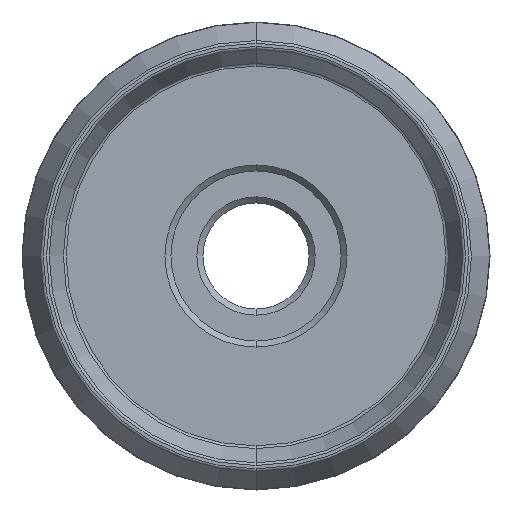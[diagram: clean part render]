
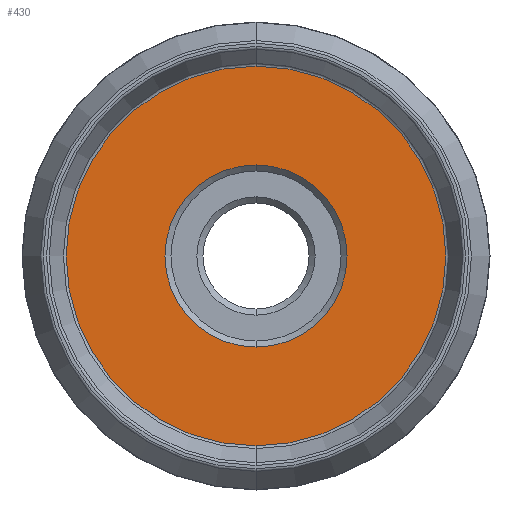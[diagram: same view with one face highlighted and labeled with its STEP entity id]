
A CAD part, front view. The second image highlights one B-rep face of the part: STEP entity #430.
In plain terms, the highlighted planar face has unit normal (0, -1, 0).
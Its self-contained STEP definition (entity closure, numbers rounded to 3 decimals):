
#73 = CARTESIAN_POINT ( 'NONE',  ( 0., 2.8, 0. ) ) ;
#129 = CARTESIAN_POINT ( 'NONE',  ( 0., 2.8, 0. ) ) ;
#140 = CARTESIAN_POINT ( 'NONE',  ( 0., 2.8, 0. ) ) ;
#170 = ORIENTED_EDGE ( 'NONE', *, *, #697, .T. ) ;
#191 = DIRECTION ( 'NONE',  ( 0., 0., -1. ) ) ;
#210 = ORIENTED_EDGE ( 'NONE', *, *, #873, .T. ) ;
#215 = DIRECTION ( 'NONE',  ( 0., 1., 0. ) ) ;
#242 = CIRCLE ( 'NONE', #989, 7.55 ) ;
#250 = DIRECTION ( 'NONE',  ( 0., 0., -1. ) ) ;
#292 = VERTEX_POINT ( 'NONE', #825 ) ;
#301 = CARTESIAN_POINT ( 'NONE',  ( 7.05, 2.8, 0. ) ) ;
#354 = EDGE_CURVE ( 'NONE', #957, #543, #525, .T. ) ;
#363 = DIRECTION ( 'NONE',  ( 0., -1., 0. ) ) ;
#383 = FACE_OUTER_BOUND ( 'NONE', #669, .T. ) ;
#430 = ADVANCED_FACE ( 'NONE', ( #383, #792 ), #693, .T. ) ;
#455 = AXIS2_PLACEMENT_3D ( 'NONE', #73, #1091, #939 ) ;
#510 = CARTESIAN_POINT ( 'NONE',  ( 0., 2.8, -15.741 ) ) ;
#525 = CIRCLE ( 'NONE', #455, 15.741 ) ;
#534 = EDGE_LOOP ( 'NONE', ( #170, #982 ) ) ;
#540 = CARTESIAN_POINT ( 'NONE',  ( 0., 2.8, 15.741 ) ) ;
#543 = VERTEX_POINT ( 'NONE', #540 ) ;
#559 = VERTEX_POINT ( 'NONE', #1069 ) ;
#563 = DIRECTION ( 'NONE',  ( 0., 0., -1. ) ) ;
#574 = ORIENTED_EDGE ( 'NONE', *, *, #354, .T. ) ;
#669 = EDGE_LOOP ( 'NONE', ( #574, #210 ) ) ;
#693 = PLANE ( 'NONE',  #752 ) ;
#697 = EDGE_CURVE ( 'NONE', #559, #292, #738, .T. ) ;
#738 = CIRCLE ( 'NONE', #797, 7.55 ) ;
#752 = AXIS2_PLACEMENT_3D ( 'NONE', #301, #363, #890 ) ;
#776 = DIRECTION ( 'NONE',  ( 0., -1., 0. ) ) ;
#778 = CIRCLE ( 'NONE', #954, 15.741 ) ;
#792 = FACE_BOUND ( 'NONE', #534, .T. ) ;
#797 = AXIS2_PLACEMENT_3D ( 'NONE', #129, #1065, #250 ) ;
#806 = CARTESIAN_POINT ( 'NONE',  ( 0., 2.8, 0. ) ) ;
#825 = CARTESIAN_POINT ( 'NONE',  ( 0., 2.8, 7.55 ) ) ;
#873 = EDGE_CURVE ( 'NONE', #543, #957, #778, .T. ) ;
#890 = DIRECTION ( 'NONE',  ( 0., 0., -1. ) ) ;
#939 = DIRECTION ( 'NONE',  ( 0., 0., -1. ) ) ;
#954 = AXIS2_PLACEMENT_3D ( 'NONE', #140, #776, #191 ) ;
#957 = VERTEX_POINT ( 'NONE', #510 ) ;
#982 = ORIENTED_EDGE ( 'NONE', *, *, #1028, .T. ) ;
#989 = AXIS2_PLACEMENT_3D ( 'NONE', #806, #215, #563 ) ;
#1028 = EDGE_CURVE ( 'NONE', #292, #559, #242, .T. ) ;
#1065 = DIRECTION ( 'NONE',  ( 0., 1., 0. ) ) ;
#1069 = CARTESIAN_POINT ( 'NONE',  ( 0., 2.8, -7.55 ) ) ;
#1091 = DIRECTION ( 'NONE',  ( 0., -1., 0. ) ) ;
